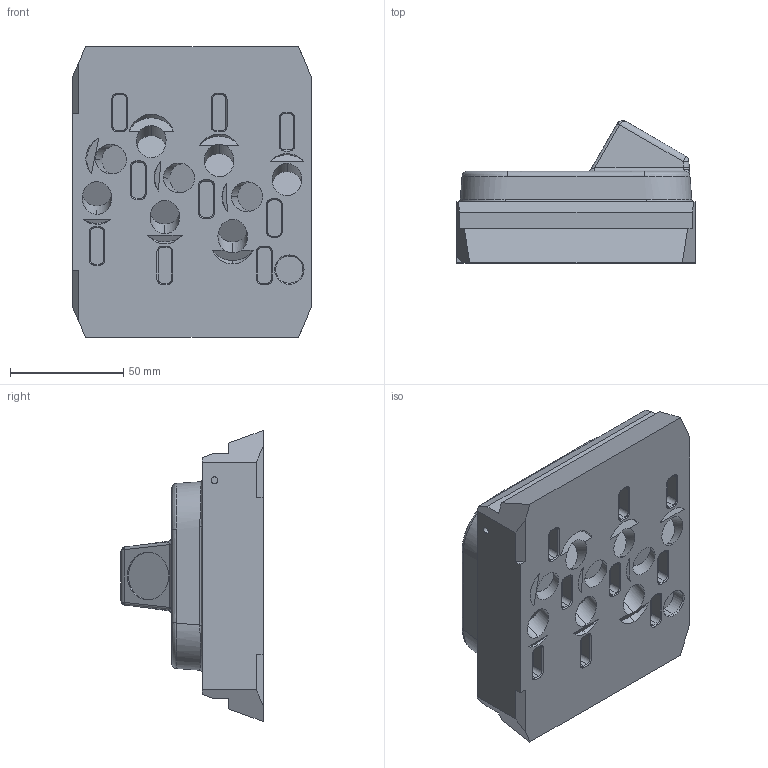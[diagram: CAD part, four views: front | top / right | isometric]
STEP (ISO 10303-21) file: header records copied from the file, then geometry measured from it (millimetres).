
FILE_DESCRIPTION (( 'STEP AP214' ), '1' );
FILE_NAME ('賸.01-04.000-02.STEP', '2025-01-16T10:25:31', ( '' ), ( '' ), 'SwSTEP 2.0', 'SolidWorks 2020', '' );
FILE_SCHEMA (( 'AUTOMOTIVE_DESIGN' ));
Length unit declared in the file: millimetre
Products named in the file (1): 賸.01-04.000-02
Bounding box: 106 x 62.9 x 128.6 mm (x, y, z)
Volume: 441275.6 mm3; surface area: 64753.7 mm2
Topology: 2 solids, 2 shells, 290 faces, 681 edges, 422 vertices
Faces by surface type: plane 131, cylinder 89, cone 38, bspline 32
Entity records: 10899 total; most frequent: CARTESIAN_POINT 4428, ORIENTED_EDGE 1358, DIRECTION 1300, EDGE_CURVE 679, AXIS2_PLACEMENT_3D 462, VERTEX_POINT 422, VECTOR 376, LINE 376
